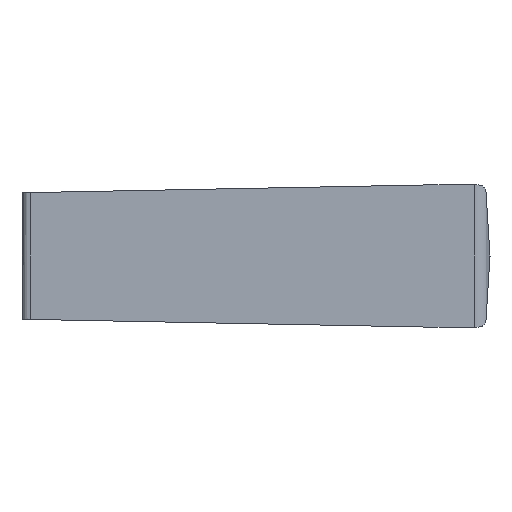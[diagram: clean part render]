
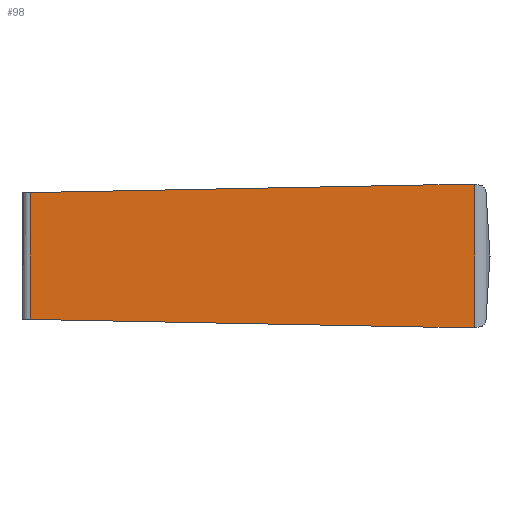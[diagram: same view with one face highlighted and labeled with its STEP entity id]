
A CAD part, left-side view. The second image highlights one B-rep face of the part: STEP entity #98.
In plain terms, the highlighted planar face has unit normal (-1, -0.026, 0).
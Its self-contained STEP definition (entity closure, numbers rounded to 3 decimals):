
#98 = ADVANCED_FACE( '', ( #158 ), #159, .F. );
#158 = FACE_OUTER_BOUND( '', #230, .T. );
#159 = PLANE( '', #231 );
#230 = EDGE_LOOP( '', ( #435, #436, #437, #438, #439, #440 ) );
#231 = AXIS2_PLACEMENT_3D( '', #441, #442, #443 );
#435 = ORIENTED_EDGE( '', *, *, #571, .T. );
#436 = ORIENTED_EDGE( '', *, *, #604, .F. );
#437 = ORIENTED_EDGE( '', *, *, #592, .F. );
#438 = ORIENTED_EDGE( '', *, *, #605, .F. );
#439 = ORIENTED_EDGE( '', *, *, #564, .T. );
#440 = ORIENTED_EDGE( '', *, *, #606, .T. );
#441 = CARTESIAN_POINT( '', ( -4.45, -28.626, 15. ) );
#442 = DIRECTION( '', ( 1., 0.026, 0. ) );
#443 = DIRECTION( '', ( 0.026, -1., 0. ) );
#564 = EDGE_CURVE( '', #678, #676, #679, .T. );
#571 = EDGE_CURVE( '', #691, #692, #693, .T. );
#592 = EDGE_CURVE( '', #723, #726, #727, .T. );
#604 = EDGE_CURVE( '', #726, #692, #748, .T. );
#605 = EDGE_CURVE( '', #678, #723, #749, .T. );
#606 = EDGE_CURVE( '', #676, #691, #750, .T. );
#676 = VERTEX_POINT( '', #865 );
#678 = VERTEX_POINT( '', #867 );
#679 = LINE( '', #868, #869 );
#691 = VERTEX_POINT( '', #885 );
#692 = VERTEX_POINT( '', #886 );
#693 = LINE( '', #887, #888 );
#723 = VERTEX_POINT( '', #964 );
#726 = VERTEX_POINT( '', #967 );
#727 = LINE( '', #968, #969 );
#748 = LINE( '', #1062, #1063 );
#749 = LINE( '', #1064, #1065 );
#750 = LINE( '', #1066, #1067 );
#865 = CARTESIAN_POINT( '', ( -5.187, -0.513, 4.01 ) );
#867 = CARTESIAN_POINT( '', ( -4.523, -25.86, 4.5 ) );
#868 = CARTESIAN_POINT( '', ( -4.393, -30.819, 4.596 ) );
#869 = VECTOR( '', #1160, 1. );
#885 = CARTESIAN_POINT( '', ( -5.187, -0.513, -4.01 ) );
#886 = CARTESIAN_POINT( '', ( -4.523, -25.86, -4.5 ) );
#887 = CARTESIAN_POINT( '', ( -4.739, -17.609, -4.34 ) );
#888 = VECTOR( '', #1171, 1. );
#964 = CARTESIAN_POINT( '', ( -4.45, -28.626, 4.5 ) );
#967 = CARTESIAN_POINT( '', ( -4.45, -28.626, -4.5 ) );
#968 = CARTESIAN_POINT( '', ( -4.45, -28.626, 15. ) );
#969 = VECTOR( '', #1202, 1. );
#1062 = CARTESIAN_POINT( '', ( -4.356, -32.213, -4.5 ) );
#1063 = VECTOR( '', #1212, 1. );
#1064 = CARTESIAN_POINT( '', ( -4.396, -30.72, 4.5 ) );
#1065 = VECTOR( '', #1213, 1. );
#1066 = CARTESIAN_POINT( '', ( -5.187, -0.513, 15. ) );
#1067 = VECTOR( '', #1214, 1. );
#1160 = DIRECTION( '', ( -0.026, 0.999, -0.019 ) );
#1171 = DIRECTION( '', ( 0.026, -0.999, -0.019 ) );
#1202 = DIRECTION( '', ( 0., 0., -1. ) );
#1212 = DIRECTION( '', ( -0.026, 1., 0. ) );
#1213 = DIRECTION( '', ( 0.026, -1., 0. ) );
#1214 = DIRECTION( '', ( 0., 0., -1. ) );
